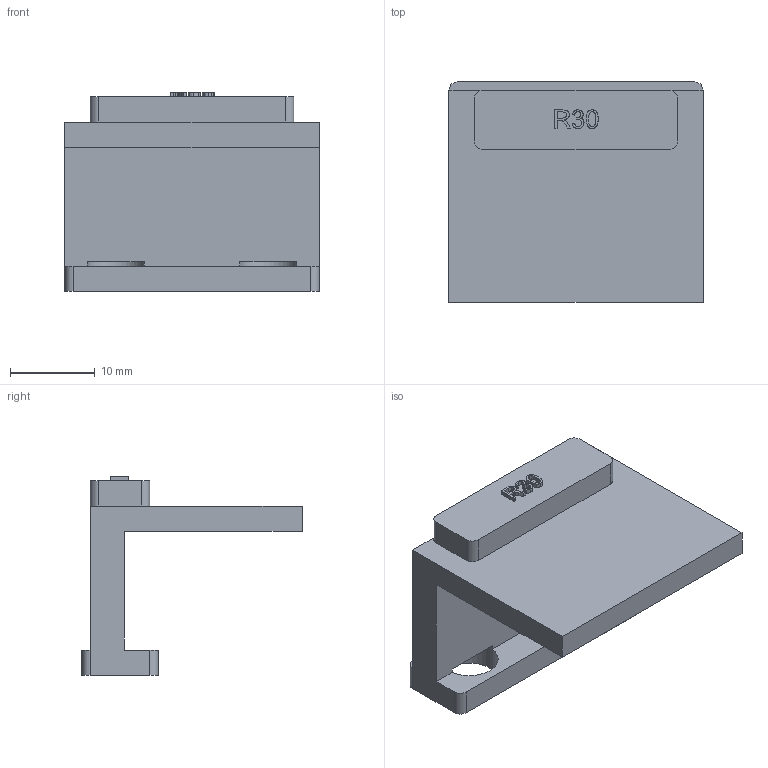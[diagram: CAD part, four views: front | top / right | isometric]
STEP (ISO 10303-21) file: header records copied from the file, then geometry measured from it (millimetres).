
FILE_DESCRIPTION(('Open CASCADE Model'),'2;1');
FILE_NAME('Open CASCADE Shape Model','1970-01-01T00:00:00',('Author'),( 'Open CASCADE'),'Open CASCADE STEP processor 7.8','Open CASCADE 7.8' ,'Unknown');
FILE_SCHEMA(('AUTOMOTIVE_DESIGN { 1 0 10303 214 1 1 1 1 }'));
Length unit declared in the file: millimetre
Products named in the file (2): Open CASCADE STEP translator 7.8 10; R30 support ceiling
Assembly tree (1 placements, depth 2):
  Open CASCADE STEP translator 7.8 10
    R30 support ceiling
Bounding box: 30 x 26 x 23.48 mm (x, y, z)
Volume: 5001.4 mm3; surface area: 3580.1 mm2
Topology: 1 solids, 1 shells, 110 faces, 313 edges, 208 vertices
Faces by surface type: extrusion 63, plane 37, cylinder 10
Full cylindrical faces by diameter (mm): 6.8 x2
Entity records: 8724 total; most frequent: CARTESIAN_POINT 3084, DIRECTION 756, ORIENTED_EDGE 626, PCURVE 626, DEFINITIONAL_REPRESENTATION 626, VECTOR 590, LINE 527, B_SPLINE_CURVE_WITH_KNOTS 427
